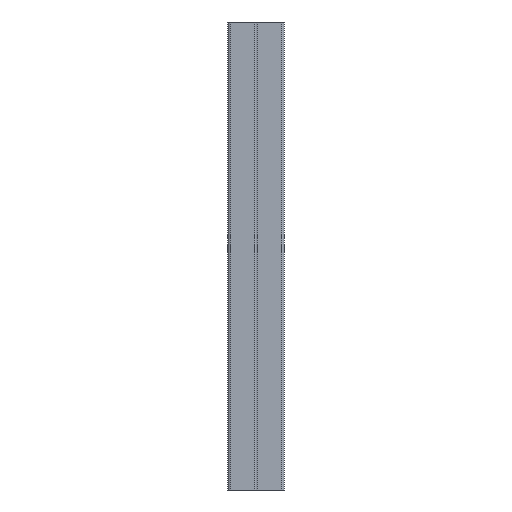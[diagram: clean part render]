
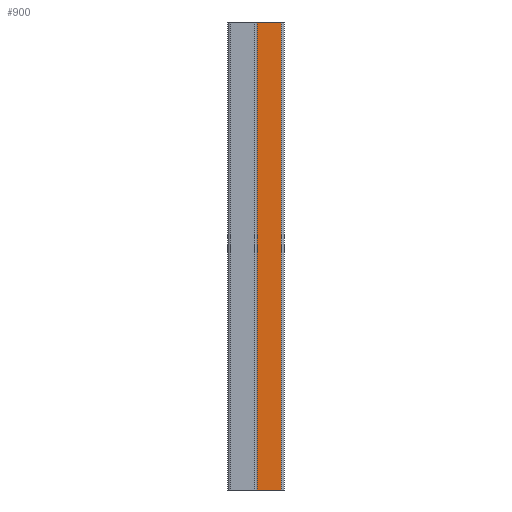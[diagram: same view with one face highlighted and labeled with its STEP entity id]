
A CAD part, front view. The second image highlights one B-rep face of the part: STEP entity #900.
In plain terms, the highlighted planar face has unit normal (0, -1, 0).
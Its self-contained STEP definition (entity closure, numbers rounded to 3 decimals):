
#46 = VERTEX_POINT ( 'NONE', #698 ) ;
#62 = VERTEX_POINT ( 'NONE', #556 ) ;
#129 = LINE ( 'NONE', #305, #180 ) ;
#180 = VECTOR ( 'NONE', #277, 1000. ) ;
#233 = LINE ( 'NONE', #821, #579 ) ;
#239 = AXIS2_PLACEMENT_3D ( 'NONE', #766, #290, #1626 ) ;
#277 = DIRECTION ( 'NONE',  ( 1., 0., 0. ) ) ;
#290 = DIRECTION ( 'NONE',  ( 0., -1., 0. ) ) ;
#299 = DIRECTION ( 'NONE',  ( 0., 0., 1. ) ) ;
#305 = CARTESIAN_POINT ( 'NONE',  ( -15., -15., -250. ) ) ;
#431 = ORIENTED_EDGE ( 'NONE', *, *, #1589, .F. ) ;
#445 = EDGE_CURVE ( 'NONE', #522, #46, #685, .T. ) ;
#518 = VERTEX_POINT ( 'NONE', #848 ) ;
#522 = VERTEX_POINT ( 'NONE', #1456 ) ;
#527 = EDGE_LOOP ( 'NONE', ( #930, #1530, #947, #431 ) ) ;
#556 = CARTESIAN_POINT ( 'NONE',  ( 12., -15., -250. ) ) ;
#579 = VECTOR ( 'NONE', #1414, 1000. ) ;
#589 = PLANE ( 'NONE',  #239 ) ;
#685 = LINE ( 'NONE', #1715, #1642 ) ;
#698 = CARTESIAN_POINT ( 'NONE',  ( -13.65, -15., 250. ) ) ;
#766 = CARTESIAN_POINT ( 'NONE',  ( -15., -15., -250. ) ) ;
#821 = CARTESIAN_POINT ( 'NONE',  ( -15., -15., 250. ) ) ;
#848 = CARTESIAN_POINT ( 'NONE',  ( 12., -15., 250. ) ) ;
#900 = ADVANCED_FACE ( 'NONE', ( #1615 ), #589, .T. ) ;
#918 = EDGE_CURVE ( 'NONE', #62, #518, #1042, .T. ) ;
#930 = ORIENTED_EDGE ( 'NONE', *, *, #445, .F. ) ;
#947 = ORIENTED_EDGE ( 'NONE', *, *, #918, .T. ) ;
#1042 = LINE ( 'NONE', #1175, #1713 ) ;
#1175 = CARTESIAN_POINT ( 'NONE',  ( 12., -15., -250. ) ) ;
#1275 = DIRECTION ( 'NONE',  ( 0., 0., 1. ) ) ;
#1414 = DIRECTION ( 'NONE',  ( 1., 0., 0. ) ) ;
#1456 = CARTESIAN_POINT ( 'NONE',  ( -13.65, -15., -250. ) ) ;
#1530 = ORIENTED_EDGE ( 'NONE', *, *, #1719, .T. ) ;
#1589 = EDGE_CURVE ( 'NONE', #46, #518, #233, .T. ) ;
#1615 = FACE_OUTER_BOUND ( 'NONE', #527, .T. ) ;
#1626 = DIRECTION ( 'NONE',  ( 0., 0., -1. ) ) ;
#1642 = VECTOR ( 'NONE', #1275, 1000. ) ;
#1713 = VECTOR ( 'NONE', #299, 1000. ) ;
#1715 = CARTESIAN_POINT ( 'NONE',  ( -13.65, -15., -250. ) ) ;
#1719 = EDGE_CURVE ( 'NONE', #522, #62, #129, .T. ) ;
